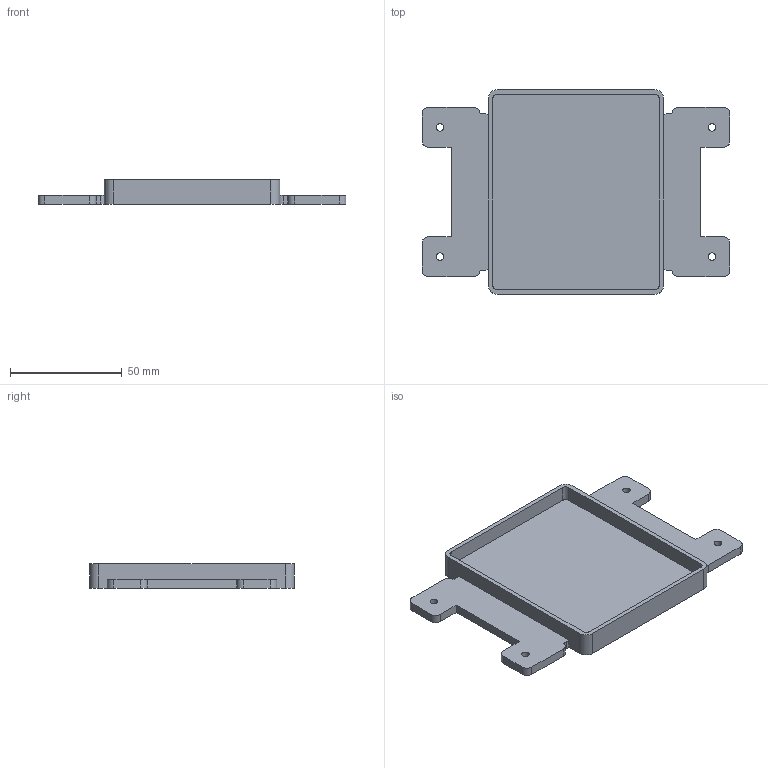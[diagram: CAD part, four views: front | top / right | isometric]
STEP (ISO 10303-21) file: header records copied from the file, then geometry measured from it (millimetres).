
FILE_DESCRIPTION(('FreeCAD Model'),'2;1');
FILE_NAME('Open CASCADE Shape Model','2026-10-18T22:43:14',('FreeCAD'),( 'FreeCAD'),'Open CASCADE STEP processor 7.8','FreeCAD','Unknown');
FILE_SCHEMA(('AUTOMOTIVE_DESIGN { 1 0 10303 214 1 1 1 1 }'));
Length unit declared in the file: millimetre
Products named in the file (1): Open CASCADE STEP translator 7.8 10
Bounding box: 138 x 91.6 x 11 mm (x, y, z)
Volume: 46804.6 mm3; surface area: 27920.8 mm2
Topology: 1 solids, 1 shells, 59 faces, 168 edges, 112 vertices
Faces by surface type: plane 31, cylinder 28
Full cylindrical faces by diameter (mm): 3.4 x4
Entity records: 1964 total; most frequent: DIRECTION 344, CARTESIAN_POINT 340, ORIENTED_EDGE 336, EDGE_CURVE 168, AXIS2_PLACEMENT_3D 116, VERTEX_POINT 112, LINE 112, VECTOR 112
